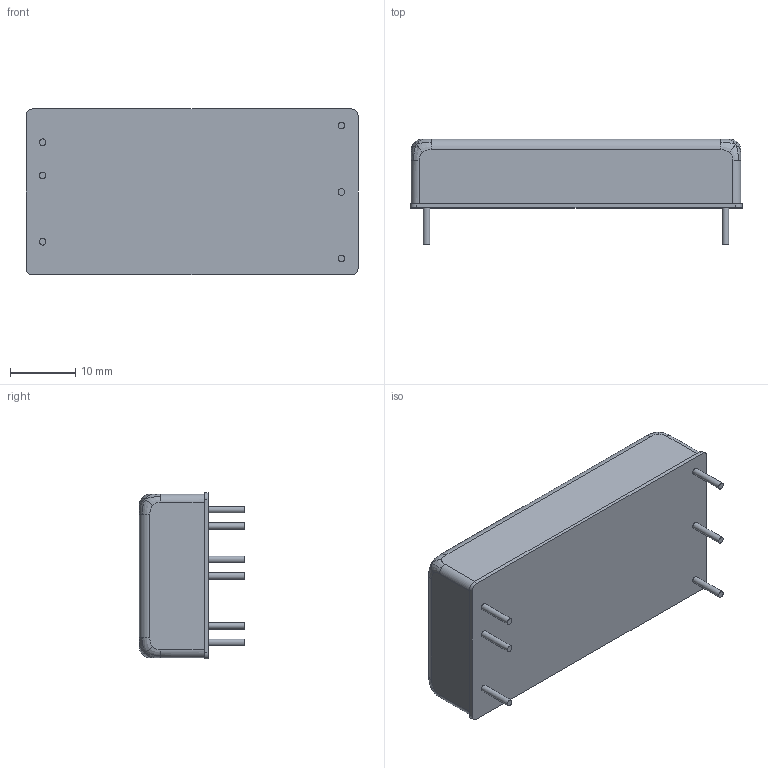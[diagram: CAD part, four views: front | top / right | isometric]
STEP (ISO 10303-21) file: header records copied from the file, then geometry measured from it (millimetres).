
FILE_DESCRIPTION(/* description */ (''),/* implementation_level */ '2;1');
FILE_NAME(/* name */ '\\192.168.1.249\ctc\上下蓋圖面查詢表\Data Sheet圖面\客戶別\CTC\DCWR\\X2\91D15C6C59166BBC\X0\\PCB series\PCB60WR4(塗層紅銅殼_50.6x25.2x10.15mm)\PACKAGE\PCB60WR.stp',/* time_stamp */ '2024-05-24T11:36:07+08:00',/* author */ ('ching'),/* organization */ (''),/* preprocessor_version */ 'ST-DEVELOPER v16.5',/* originating_system */ 'Autodesk Inventor 2017',/* authorisation */ '');
FILE_SCHEMA (('AUTOMOTIVE_DESIGN { 1 0 10303 214 3 1 1 }'));
Length unit declared in the file: millimetre
Products named in the file (1): 塗層紅銅殼_50.6x25.2x10.15mm
Bounding box: 50.8 x 16.1 x 25.4 mm (x, y, z)
Volume: 13175.7 mm3; surface area: 6665.6 mm2
Topology: 8 solids, 8 shells, 66 faces, 138 edges, 88 vertices
Faces by surface type: bspline 24, plane 24, cylinder 18
Full cylindrical faces by diameter (mm): 1 x6
Entity records: 3142 total; most frequent: CARTESIAN_POINT 1811, ORIENTED_EDGE 264, DIRECTION 234, EDGE_CURVE 132, AXIS2_PLACEMENT_3D 99, VERTEX_POINT 88, EDGE_LOOP 72, FACE_OUTER_BOUND 66
